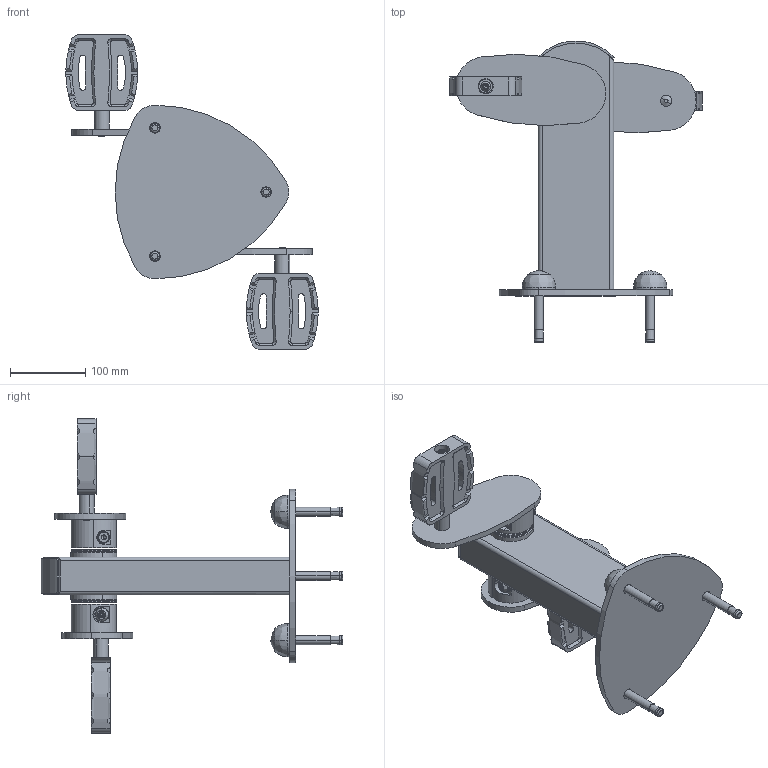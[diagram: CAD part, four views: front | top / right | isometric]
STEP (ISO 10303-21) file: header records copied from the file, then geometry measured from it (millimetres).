
FILE_DESCRIPTION (( 'STEP AP214' ), '1' );
FILE_NAME ('PMS0816 - PÉDALIER.STEP', '2024-12-10T10:22:19', ( '' ), ( '' ), 'SwSTEP 2.0', 'SolidWorks 2024', '' );
FILE_SCHEMA (( 'AUTOMOTIVE_DESIGN' ));
Length unit declared in the file: millimetre
Products named in the file (1): PMS0816 - PÉDALIER
Bounding box: 334.26 x 399.8 x 416.3 mm (x, y, z)
Surface area: 370441.1 mm2 (no closed solid volume)
Topology: 0 solids, 41 shells, 483 faces, 1389 edges, 942 vertices
Faces by surface type: cylinder 178, plane 155, cone 112, torus 18, bspline 14, sphere 6
Entity records: 17361 total; most frequent: CARTESIAN_POINT 4583, DIRECTION 2837, ORIENTED_EDGE 2538, EDGE_CURVE 1387, AXIS2_PLACEMENT_3D 1182, VERTEX_POINT 942, CIRCLE 712, EDGE_LOOP 538
